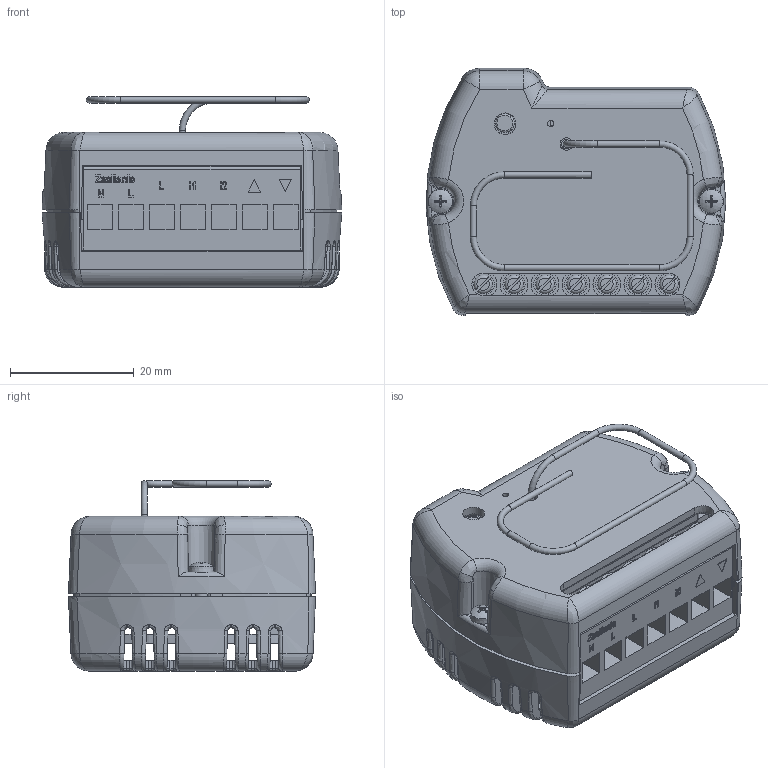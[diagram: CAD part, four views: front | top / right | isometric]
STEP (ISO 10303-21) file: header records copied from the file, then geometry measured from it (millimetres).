
FILE_DESCRIPTION(/* description */ (''),/* implementation_level */ '2;1');
FILE_NAME(/* name */ 'PPZ-02_.step',/* time_stamp */ '2026-02-06T11:08:10+01:00',/* author */ (''),/* organization */ (''),/* preprocessor_version */ 'ST-DEVELOPER v20.1',/* originating_system */ 'Autodesk Translation Framework v14.24.0.0',/* authorisation */ '');
FILE_SCHEMA (('AUTOMOTIVE_DESIGN { 1 0 10303 214 3 1 1 }'));
Products named in the file (132): Przekaźnik do puszki1; Plytka dolna1; Łaczka; SWITCH 6X6X3,2; Gora_cewka3; Spod_cewka3; ST-1011_2_1_E; PCB Component; Board; RFM22B_S1_D; Body3; Body4; Body5; Body6; Body7; Body8; Body9; Body10; Body11; Body12; Body13; Body14; Body15; Body16; Body17; Body18; Body19; Body20; Body21; Body22; Body23; Body24; Body25; Body26; Body27; Body28; Body29; Body30; Body31; Body32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
Assembly tree (146 placements, depth 5):
  Przekaźnik do puszki1
    Plytka dolna1
    Łaczka
    SWITCH 6X6X3,2
    Gora_cewka3
    Spod_cewka3
    ST-1011_2_1_E
      PCB Component
        Board
        100n  x4
        10k  x3
        RFM22B_S1_D
          Body3
          Body4
          Body5
          Body6
          Body7
          Body8
          Body9
          Body10
          Body11
          Body12
          Body13
          Body14
          Body15
          Body16
          Body17
          Body18
          Body19
          Body20
          Body21
          Body22
          Body23
          Body24
          Body25
          Body26
          Body27
          Body28
          Body29
          Body30
          Body31
          Body32
          Body33
          Body34
          Body35
          Body36
          Body37
          Body38
          Body39
          Body40
          Body41
          Body42
          Body43
          Body44
          Body45
          Body46
          Body47
          Body48
          Body49
          Body50
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Bounding box: 48.38 x 39.9 x 30.74 mm (x, y, z)
Volume: 18167.9 mm3; surface area: 23161.6 mm2
Topology: 163 solids, 164 shells, 4175 faces, 10156 edges, 6283 vertices
Faces by surface type: plane 2196, cylinder 1020, sphere 382, bspline 335, torus 121, cone 121
Full cylindrical faces by diameter (mm): 0.4 x4, 0.406 x11, 0.5 x74, 0.6 x1, 0.9 x6, 1 x17, 1.5 x1, 2.2 x2, 3.1 x1, 3.5 x1, 3.6 x7, 4.5 x7
Entity records: 131083 total; most frequent: CARTESIAN_POINT 31835, DIRECTION 19738, ORIENTED_EDGE 19546, EDGE_CURVE 9775, AXIS2_PLACEMENT_3D 6763, LINE 6212, VECTOR 6212, VERTEX_POINT 6107
